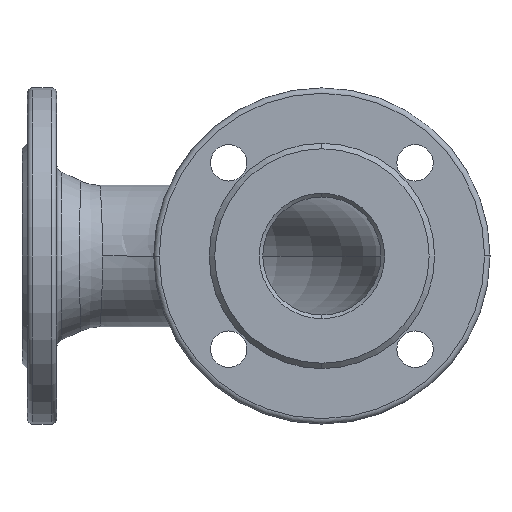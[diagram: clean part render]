
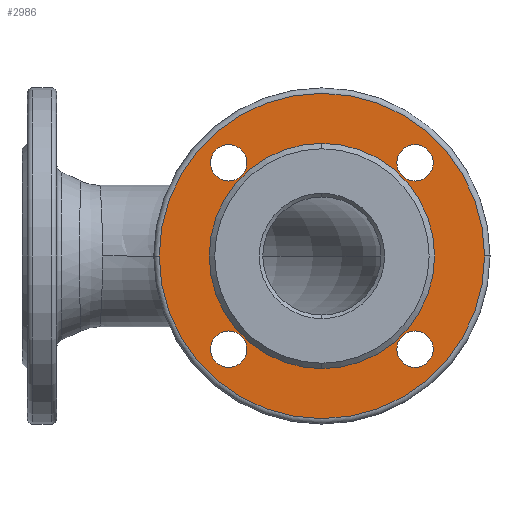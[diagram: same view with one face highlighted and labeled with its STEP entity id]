
A CAD part, front view. The second image highlights one B-rep face of the part: STEP entity #2986.
In plain terms, the highlighted planar face has unit normal (0, -1, 0).
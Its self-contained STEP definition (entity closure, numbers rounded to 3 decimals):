
#7 = CIRCLE ( 'NONE', #1269, 62. ) ;
#13 = DIRECTION ( 'NONE',  ( 0., 1., 0. ) ) ;
#35 = AXIS2_PLACEMENT_3D ( 'NONE', #4959, #1347, #414 ) ;
#50 = CIRCLE ( 'NONE', #893, 10. ) ;
#56 = ORIENTED_EDGE ( 'NONE', *, *, #6477, .T. ) ;
#160 = DIRECTION ( 'NONE',  ( 0., 0., 1. ) ) ;
#192 = CARTESIAN_POINT ( 'NONE',  ( 123.735, -162., 51.265 ) ) ;
#201 = ORIENTED_EDGE ( 'NONE', *, *, #6512, .T. ) ;
#314 = DIRECTION ( 'NONE',  ( -1., 0., 0. ) ) ;
#339 = DIRECTION ( 'NONE',  ( 0., -1., 0. ) ) ;
#353 = CIRCLE ( 'NONE', #5439, 10. ) ;
#386 = DIRECTION ( 'NONE',  ( 1., 0., 0. ) ) ;
#396 = ORIENTED_EDGE ( 'NONE', *, *, #6296, .T. ) ;
#414 = DIRECTION ( 'NONE',  ( 0., 0., 1. ) ) ;
#424 = CARTESIAN_POINT ( 'NONE',  ( 206.265, -162., 51.265 ) ) ;
#469 = FACE_BOUND ( 'NONE', #2299, .T. ) ;
#499 = ORIENTED_EDGE ( 'NONE', *, *, #667, .T. ) ;
#667 = EDGE_CURVE ( 'Defeatured_0_0+Defeatured_0_108+Defeatured_0_108+Defeatured_0_108', #3255, #2320, #2773, .T. ) ;
#719 = ORIENTED_EDGE ( 'NONE', *, *, #6038, .T. ) ;
#726 = AXIS2_PLACEMENT_3D ( 'NONE', #1900, #339, #2893 ) ;
#735 = DIRECTION ( 'NONE',  ( -1., 0., 0. ) ) ;
#754 = CARTESIAN_POINT ( 'NONE',  ( 75.5, -162., 0. ) ) ;
#761 = CARTESIAN_POINT ( 'NONE',  ( 206.265, -162., -51.265 ) ) ;
#766 = AXIS2_PLACEMENT_3D ( 'NONE', #2675, #5656, #160 ) ;
#794 = FACE_BOUND ( 'NONE', #2822, .T. ) ;
#877 = CARTESIAN_POINT ( 'NONE',  ( 254.5, -162., 0. ) ) ;
#893 = AXIS2_PLACEMENT_3D ( 'NONE', #4692, #3168, #4189 ) ;
#1035 = CARTESIAN_POINT ( 'NONE',  ( 216.265, -162., 51.265 ) ) ;
#1116 = CARTESIAN_POINT ( 'NONE',  ( 165., -162., -62. ) ) ;
#1212 = EDGE_CURVE ( 'Defeatured_0_0+Defeatured_0_13+Defeatured_0_13+Defeatured_0_13', #6419, #4420, #4116, .T. ) ;
#1213 = ORIENTED_EDGE ( 'NONE', *, *, #5744, .T. ) ;
#1269 = AXIS2_PLACEMENT_3D ( 'NONE', #5696, #4778, #3322 ) ;
#1302 = CARTESIAN_POINT ( 'NONE',  ( 103.735, -162., -51.265 ) ) ;
#1347 = DIRECTION ( 'NONE',  ( 0., 1., 0. ) ) ;
#1464 = FACE_BOUND ( 'NONE', #3827, .T. ) ;
#1495 = DIRECTION ( 'NONE',  ( 0., 0., -1. ) ) ;
#1528 = AXIS2_PLACEMENT_3D ( 'NONE', #6531, #3656, #5179 ) ;
#1754 = CARTESIAN_POINT ( 'NONE',  ( 165., -162., 62. ) ) ;
#1793 = CARTESIAN_POINT ( 'NONE',  ( 103.735, -162., 51.265 ) ) ;
#1900 = CARTESIAN_POINT ( 'NONE',  ( 165., -162., 0. ) ) ;
#1941 = VERTEX_POINT ( 'NONE', #3330 ) ;
#1954 = CIRCLE ( 'NONE', #1528, 10. ) ;
#2144 = AXIS2_PLACEMENT_3D ( 'NONE', #4561, #2919, #6055 ) ;
#2193 = CARTESIAN_POINT ( 'NONE',  ( 226.265, -162., 51.265 ) ) ;
#2266 = EDGE_CURVE ( 'Defeatured_0_0+Defeatured_0_13+Defeatured_0_13+Defeatured_0_13', #4420, #6419, #5933, .T. ) ;
#2287 = EDGE_CURVE ( 'Defeatured_0_0+Defeatured_0_10+Defeatured_0_10+Defeatured_0_10', #5257, #4383, #7, .T. ) ;
#2299 = EDGE_LOOP ( 'NONE', ( #3171, #201 ) ) ;
#2320 = VERTEX_POINT ( 'NONE', #2193 ) ;
#2325 = CARTESIAN_POINT ( 'NONE',  ( 165., -162., 0. ) ) ;
#2358 = VERTEX_POINT ( 'NONE', #1302 ) ;
#2675 = CARTESIAN_POINT ( 'NONE',  ( 216.265, -162., 51.265 ) ) ;
#2731 = VERTEX_POINT ( 'NONE', #761 ) ;
#2773 = CIRCLE ( 'NONE', #766, 10. ) ;
#2822 = EDGE_LOOP ( 'NONE', ( #1213, #396 ) ) ;
#2861 = AXIS2_PLACEMENT_3D ( 'NONE', #2325, #3288, #735 ) ;
#2893 = DIRECTION ( 'NONE',  ( -1., 0., 0. ) ) ;
#2919 = DIRECTION ( 'NONE',  ( 0., 1., 0. ) ) ;
#2969 = CARTESIAN_POINT ( 'NONE',  ( 216.265, -162., -51.265 ) ) ;
#2973 = AXIS2_PLACEMENT_3D ( 'NONE', #5501, #4010, #1495 ) ;
#2984 = PLANE ( 'NONE',  #2973 ) ;
#2986 = ADVANCED_FACE ( 'Defeatured_0_0', ( #1464, #3479, #794, #6354, #5867, #469 ), #2984, .F. ) ;
#3059 = EDGE_CURVE ( 'Defeatured_0_0+Defeatured_0_110+Defeatured_0_110+Defeatured_0_110', #2358, #1941, #4126, .T. ) ;
#3168 = DIRECTION ( 'NONE',  ( 0., 1., 0. ) ) ;
#3171 = ORIENTED_EDGE ( 'NONE', *, *, #2287, .T. ) ;
#3185 = DIRECTION ( 'NONE',  ( 0., 1., 0. ) ) ;
#3255 = VERTEX_POINT ( 'NONE', #424 ) ;
#3284 = ORIENTED_EDGE ( 'NONE', *, *, #4820, .T. ) ;
#3288 = DIRECTION ( 'NONE',  ( 0., -1., 0. ) ) ;
#3322 = DIRECTION ( 'NONE',  ( 0., 0., 1. ) ) ;
#3330 = CARTESIAN_POINT ( 'NONE',  ( 123.735, -162., -51.265 ) ) ;
#3374 = VERTEX_POINT ( 'NONE', #5643 ) ;
#3375 = EDGE_LOOP ( 'NONE', ( #3284, #499 ) ) ;
#3479 = FACE_BOUND ( 'NONE', #6358, .T. ) ;
#3627 = ORIENTED_EDGE ( 'NONE', *, *, #5222, .T. ) ;
#3656 = DIRECTION ( 'NONE',  ( 0., 1., 0. ) ) ;
#3743 = ORIENTED_EDGE ( 'NONE', *, *, #3059, .T. ) ;
#3759 = DIRECTION ( 'NONE',  ( 0., 1., 0. ) ) ;
#3777 = CARTESIAN_POINT ( 'NONE',  ( 113.735, -162., -51.265 ) ) ;
#3827 = EDGE_LOOP ( 'NONE', ( #56, #719 ) ) ;
#3965 = DIRECTION ( 'NONE',  ( 0., 1., 0. ) ) ;
#4010 = DIRECTION ( 'NONE',  ( 0., 1., 0. ) ) ;
#4056 = CIRCLE ( 'NONE', #35, 62. ) ;
#4116 = CIRCLE ( 'NONE', #726, 89.5 ) ;
#4126 = CIRCLE ( 'NONE', #5293, 10. ) ;
#4189 = DIRECTION ( 'NONE',  ( 0., 0., -1. ) ) ;
#4249 = AXIS2_PLACEMENT_3D ( 'NONE', #4312, #3759, #314 ) ;
#4312 = CARTESIAN_POINT ( 'NONE',  ( 113.735, -162., 51.265 ) ) ;
#4324 = VERTEX_POINT ( 'NONE', #192 ) ;
#4335 = ORIENTED_EDGE ( 'NONE', *, *, #1212, .T. ) ;
#4383 = VERTEX_POINT ( 'NONE', #1754 ) ;
#4420 = VERTEX_POINT ( 'NONE', #754 ) ;
#4481 = CIRCLE ( 'NONE', #5326, 10. ) ;
#4561 = CARTESIAN_POINT ( 'NONE',  ( 216.265, -162., -51.265 ) ) ;
#4692 = CARTESIAN_POINT ( 'NONE',  ( 113.735, -162., -51.265 ) ) ;
#4693 = EDGE_LOOP ( 'NONE', ( #6181, #4335 ) ) ;
#4778 = DIRECTION ( 'NONE',  ( 0., 1., 0. ) ) ;
#4820 = EDGE_CURVE ( 'Defeatured_0_0+Defeatured_0_108+Defeatured_0_108+Defeatured_0_108', #2320, #3255, #4481, .T. ) ;
#4959 = CARTESIAN_POINT ( 'NONE',  ( 165., -162., 0. ) ) ;
#4993 = VERTEX_POINT ( 'NONE', #1793 ) ;
#5179 = DIRECTION ( 'NONE',  ( -1., 0., 0. ) ) ;
#5222 = EDGE_CURVE ( 'Defeatured_0_0+Defeatured_0_110+Defeatured_0_110+Defeatured_0_110', #1941, #2358, #50, .T. ) ;
#5239 = DIRECTION ( 'NONE',  ( 0., 0., -1. ) ) ;
#5257 = VERTEX_POINT ( 'NONE', #1116 ) ;
#5293 = AXIS2_PLACEMENT_3D ( 'NONE', #3777, #3185, #5239 ) ;
#5326 = AXIS2_PLACEMENT_3D ( 'NONE', #1035, #13, #5511 ) ;
#5439 = AXIS2_PLACEMENT_3D ( 'NONE', #2969, #3965, #386 ) ;
#5501 = CARTESIAN_POINT ( 'NONE',  ( 227., -162., 0. ) ) ;
#5511 = DIRECTION ( 'NONE',  ( 0., 0., 1. ) ) ;
#5537 = CIRCLE ( 'NONE', #4249, 10. ) ;
#5643 = CARTESIAN_POINT ( 'NONE',  ( 226.265, -162., -51.265 ) ) ;
#5656 = DIRECTION ( 'NONE',  ( 0., 1., 0. ) ) ;
#5696 = CARTESIAN_POINT ( 'NONE',  ( 165., -162., 0. ) ) ;
#5744 = EDGE_CURVE ( 'Defeatured_0_0+Defeatured_0_109+Defeatured_0_109+Defeatured_0_109', #4324, #4993, #1954, .T. ) ;
#5867 = FACE_OUTER_BOUND ( 'NONE', #4693, .T. ) ;
#5933 = CIRCLE ( 'NONE', #2861, 89.5 ) ;
#6038 = EDGE_CURVE ( 'Defeatured_0_0+Defeatured_0_111+Defeatured_0_111+Defeatured_0_111', #2731, #3374, #6058, .T. ) ;
#6055 = DIRECTION ( 'NONE',  ( 1., 0., 0. ) ) ;
#6058 = CIRCLE ( 'NONE', #2144, 10. ) ;
#6181 = ORIENTED_EDGE ( 'NONE', *, *, #2266, .T. ) ;
#6296 = EDGE_CURVE ( 'Defeatured_0_0+Defeatured_0_109+Defeatured_0_109+Defeatured_0_109', #4993, #4324, #5537, .T. ) ;
#6354 = FACE_BOUND ( 'NONE', #3375, .T. ) ;
#6358 = EDGE_LOOP ( 'NONE', ( #3627, #3743 ) ) ;
#6419 = VERTEX_POINT ( 'NONE', #877 ) ;
#6477 = EDGE_CURVE ( 'Defeatured_0_0+Defeatured_0_111+Defeatured_0_111+Defeatured_0_111', #3374, #2731, #353, .T. ) ;
#6512 = EDGE_CURVE ( 'Defeatured_0_0+Defeatured_0_10+Defeatured_0_10+Defeatured_0_10', #4383, #5257, #4056, .T. ) ;
#6531 = CARTESIAN_POINT ( 'NONE',  ( 113.735, -162., 51.265 ) ) ;
